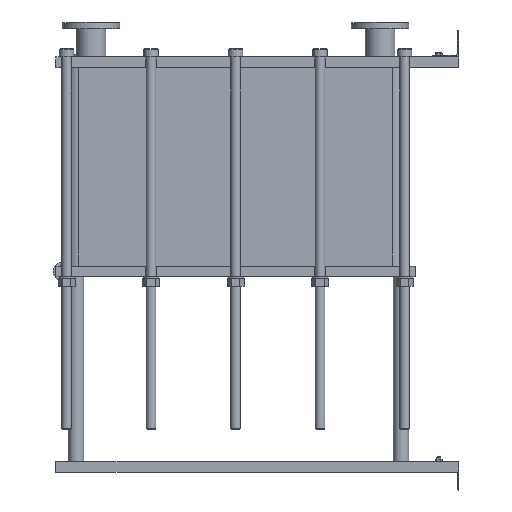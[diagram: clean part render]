
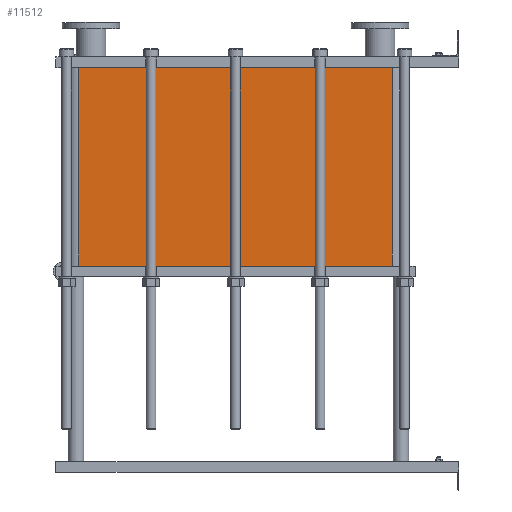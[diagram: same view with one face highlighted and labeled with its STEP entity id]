
A CAD part, left-side view. The second image highlights one B-rep face of the part: STEP entity #11512.
In plain terms, the highlighted planar face has unit normal (-1, 0, 0).
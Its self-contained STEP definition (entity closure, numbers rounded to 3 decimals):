
#1129=LINE('',#23232,#2102);
#1130=LINE('',#23236,#2103);
#1131=LINE('',#23238,#2104);
#1132=LINE('',#23239,#2105);
#2102=VECTOR('',#15887,10.);
#2103=VECTOR('',#15892,10.);
#2104=VECTOR('',#15893,10.);
#2105=VECTOR('',#15894,10.);
#3267=FACE_OUTER_BOUND('',#4093,.T.);
#4093=EDGE_LOOP('',(#10103,#10104,#10105,#10106));
#5642=VERTEX_POINT('',#23229);
#5643=VERTEX_POINT('',#23231);
#5644=VERTEX_POINT('',#23235);
#5645=VERTEX_POINT('',#23237);
#7159=EDGE_CURVE('',#5643,#5642,#1129,.T.);
#7161=EDGE_CURVE('',#5642,#5644,#1130,.T.);
#7162=EDGE_CURVE('',#5645,#5644,#1131,.T.);
#7163=EDGE_CURVE('',#5645,#5643,#1132,.T.);
#10103=ORIENTED_EDGE('',*,*,#7161,.T.);
#10104=ORIENTED_EDGE('',*,*,#7162,.F.);
#10105=ORIENTED_EDGE('',*,*,#7163,.T.);
#10106=ORIENTED_EDGE('',*,*,#7159,.T.);
#10857=PLANE('',#12751);
#11512=ADVANCED_FACE('',(#3267),#10857,.T.);
#12751=AXIS2_PLACEMENT_3D('',#23234,#15890,#15891);
#15887=DIRECTION('',(0.,0.,-1.));
#15890=DIRECTION('center_axis',(-1.,0.,0.));
#15891=DIRECTION('ref_axis',(0.,1.,0.));
#15892=DIRECTION('',(0.,-1.,0.));
#15893=DIRECTION('',(0.,0.,-1.));
#15894=DIRECTION('',(0.,1.,0.));
#23229=CARTESIAN_POINT('',(-200.,1414.,-738.3));
#23231=CARTESIAN_POINT('',(-200.,1414.,0.));
#23232=CARTESIAN_POINT('',(-200.,1414.,0.));
#23234=CARTESIAN_POINT('Origin',(-200.,248.,0.));
#23235=CARTESIAN_POINT('',(-200.,248.,-738.3));
#23236=CARTESIAN_POINT('',(-200.,539.5,-738.3));
#23237=CARTESIAN_POINT('',(-200.,248.,0.));
#23238=CARTESIAN_POINT('',(-200.,248.,0.));
#23239=CARTESIAN_POINT('',(-200.,248.,0.));
